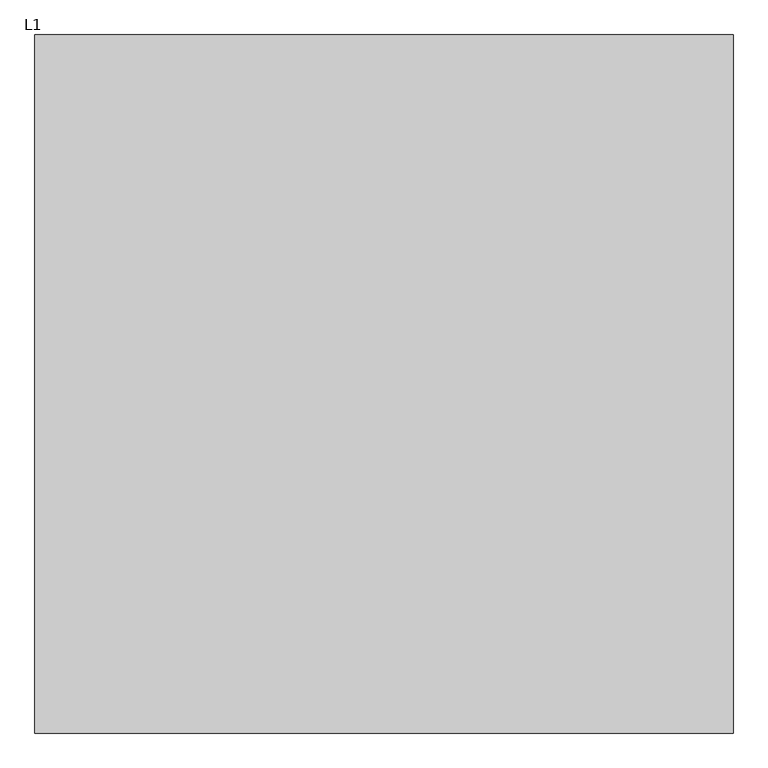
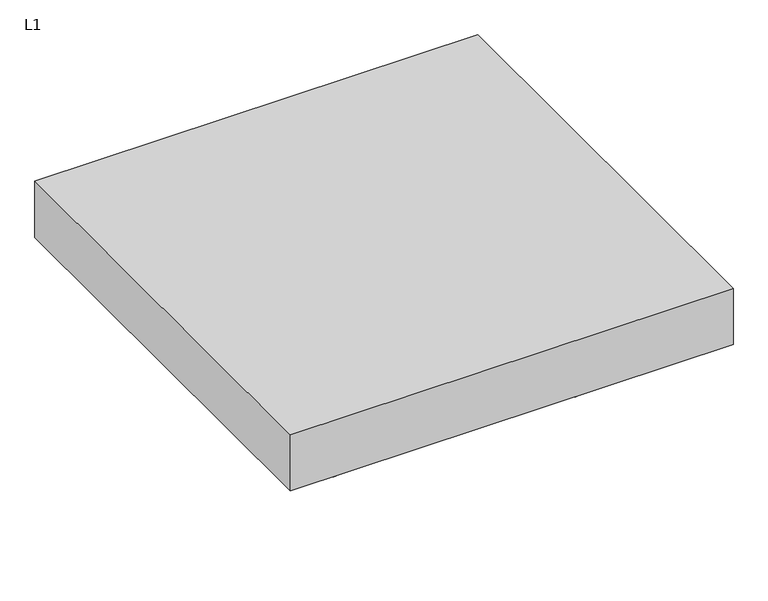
"""IFC4 building model written with IfcOpenShell, lengths in millimetres: proxy geometry, OWA Corpus : L1."""

from ifc_helpers import new_model, si_unit, point, frame, frame_2d, origin, place, context, project, spatial, polyline, circle_curve, trimmed, segment, composite_curve, outline, extrude, faceted_brep, source, transform, mapped, element, save
from ifc_brep_helpers import plane_surface, cylinder_surface, revolved_surface, advanced_brep


def l1_92acadb2(model_context):
    return source(origin(), model_context, "Body", "SolidModel", [
        advanced_brep(
        [(-128.5, -305.0, 0.0), (-120.7593825, -305.0, 0.0), (-136.2406175, -305.0, 0.0), (-120.7593825, -305.0, 15.0), (-136.2406175, -305.0, 15.0), (-121.6843825, -305.0, 15.0), (-135.3156175, -305.0, 15.0), (-121.6843825, -305.0, 19.0), (-135.3156175, -305.0, 19.0), (-126.4343825, -305.0, 19.0), (-130.5656175, -305.0, 19.0), (-126.4343825, -305.0, 22.546183), (-130.5656175, -305.0, 22.546183), (-128.5, -305.0, 22.546183)],
        [
            (0, 1),
            (1, 2, circle_curve(frame((-128.5, -305.0, 0.0), z_axis=(0.0, 0.0, -1.0), x_axis=(-1.0, 0.0, 0.0)), 7.7406175)),
            (2, 0),
            (2, 1, circle_curve(frame((-128.5, -305.0, 0.0), z_axis=(0.0, 0.0, -1.0), x_axis=(-1.0, 0.0, 0.0)), 7.7406175)),
            (1, 3),
            (3, 4, circle_curve(frame((-128.5, -305.0, 15.0), z_axis=(0.0, 0.0, -1.0), x_axis=(-1.0, 0.0, 0.0)), 7.7406175)),
            (4, 2),
            (4, 3, circle_curve(frame((-128.5, -305.0, 15.0), z_axis=(0.0, 0.0, -1.0), x_axis=(-1.0, 0.0, 0.0)), 7.7406175)),
            (3, 5),
            (5, 6, circle_curve(frame((-128.5, -305.0, 15.0), z_axis=(0.0, 0.0, -1.0), x_axis=(-1.0, 0.0, 0.0)), 6.8156175)),
            (6, 4),
            (6, 5, circle_curve(frame((-128.5, -305.0, 15.0), z_axis=(0.0, 0.0, -1.0), x_axis=(-1.0, 0.0, 0.0)), 6.8156175)),
            (5, 7),
            (7, 8, circle_curve(frame((-128.5, -305.0, 19.0), z_axis=(0.0, 0.0, -1.0), x_axis=(-1.0, 0.0, 0.0)), 6.8156175)),
            (8, 6),
            (8, 7, circle_curve(frame((-128.5, -305.0, 19.0), z_axis=(0.0, 0.0, -1.0), x_axis=(-1.0, 0.0, 0.0)), 6.8156175)),
            (7, 9),
            (9, 10, circle_curve(frame((-128.5, -305.0, 19.0), z_axis=(0.0, 0.0, -1.0), x_axis=(-1.0, 0.0, 0.0)), 2.0656175)),
            (10, 8),
            (10, 9, circle_curve(frame((-128.5, -305.0, 19.0), z_axis=(0.0, 0.0, -1.0), x_axis=(-1.0, 0.0, 0.0)), 2.0656175)),
            (9, 11),
            (11, 12, circle_curve(frame((-128.5, -305.0, 22.546183), z_axis=(0.0, 0.0, -1.0), x_axis=(-1.0, 0.0, 0.0)), 2.0656175)),
            (12, 10),
            (12, 11, circle_curve(frame((-128.5, -305.0, 22.546183), z_axis=(0.0, 0.0, -1.0), x_axis=(-1.0, 0.0, 0.0)), 2.0656175)),
            (11, 13),
            (13, 12),
        ],
        [
            plane_surface(frame((-128.5, -305.0, 0.0), z_axis=(0.0, 0.0, -1.0), x_axis=(-1.0, 0.0, 0.0))),
            cylinder_surface(frame((-128.5, -305.0, -10.0), z_axis=(0.0, 0.0, -1.0), x_axis=(-1.0, 0.0, 0.0)), 7.7406175),
            plane_surface(frame((-128.5, -305.0, 15.0), z_axis=(0.0, 0.0, 1.0), x_axis=(-1.0, 0.0, 0.0))),
            cylinder_surface(frame((-128.5, -305.0, -10.0), z_axis=(0.0, 0.0, -1.0), x_axis=(-1.0, 0.0, 0.0)), 6.8156175),
            plane_surface(frame((-128.5, -305.0, 19.0), z_axis=(0.0, 0.0, 1.0), x_axis=(-1.0, 0.0, 0.0))),
            cylinder_surface(frame((-128.5, -305.0, -10.0), z_axis=(0.0, 0.0, -1.0), x_axis=(-1.0, 0.0, 0.0)), 2.0656175),
            plane_surface(frame((-128.5, -305.0, 22.546183), z_axis=(0.0, 0.0, 1.0), x_axis=(-1.0, 0.0, 0.0))),
        ],
        [
            (0, [[1, 2, 3]]),
            (0, [[-3, 4, -1]]),
            (1, [[5, 6, 7, -2]]),
            (1, [[-7, 8, -5, -4]]),
            (2, [[9, 10, 11, -6]]),
            (2, [[-11, 12, -9, -8]]),
            (3, [[13, 14, 15, -10]]),
            (3, [[-15, 16, -13, -12]]),
            (4, [[17, 18, 19, -14]]),
            (4, [[-19, 20, -17, -16]]),
            (5, [[21, 22, 23, -18]]),
            (5, [[-23, 24, -21, -20]]),
            (6, [[25, 26, -22]]),
            (6, [[-26, -25, -24]]),
        ],
    ),
        advanced_brep(
        [(-126.2615389, -305.0, 278.8211737), (-126.1339453, -305.0, 282.8711737), (-130.8660547, -305.0, 282.8711737), (-130.7384611, -305.0, 278.8211737), (-123.6339453, -305.0, 282.8711737), (-133.3660547, -305.0, 282.8711737), (-123.6339453, -305.0, 308.1211737), (-133.3660547, -305.0, 308.1211737), (-112.6339453, -305.0, 308.1211737), (-144.3660547, -305.0, 308.1211737), (-112.6339453, -305.0, 310.0), (-144.3660547, -305.0, 310.0), (-128.5, -305.0, 310.0), (-128.5, -305.0, 278.8211737)],
        [
            (0, 1),
            (1, 2, circle_curve(frame((-128.5, -305.0, 282.8711737), z_axis=(0.0, 0.0, -1.0), x_axis=(-1.0, 0.0, 0.0)), 2.3660547)),
            (2, 3),
            (3, 0, circle_curve(frame((-128.5, -305.0, 278.8211737), z_axis=(0.0, 0.0, 1.0), x_axis=(-1.0, 0.0, 0.0)), 2.2384611)),
            (2, 1, circle_curve(frame((-128.5, -305.0, 282.8711737), z_axis=(0.0, 0.0, -1.0), x_axis=(-1.0, 0.0, 0.0)), 2.3660547)),
            (0, 3, circle_curve(frame((-128.5, -305.0, 278.8211737), z_axis=(0.0, 0.0, 1.0), x_axis=(-1.0, 0.0, 0.0)), 2.2384611)),
            (1, 4),
            (4, 5, circle_curve(frame((-128.5, -305.0, 282.8711737), z_axis=(0.0, 0.0, -1.0), x_axis=(-1.0, 0.0, 0.0)), 4.8660547)),
            (5, 2),
            (5, 4, circle_curve(frame((-128.5, -305.0, 282.8711737), z_axis=(0.0, 0.0, -1.0), x_axis=(-1.0, 0.0, 0.0)), 4.8660547)),
            (4, 6),
            (6, 7, circle_curve(frame((-128.5, -305.0, 308.1211737), z_axis=(0.0, 0.0, -1.0), x_axis=(-1.0, 0.0, 0.0)), 4.8660547)),
            (7, 5),
            (7, 6, circle_curve(frame((-128.5, -305.0, 308.1211737), z_axis=(0.0, 0.0, -1.0), x_axis=(-1.0, 0.0, 0.0)), 4.8660547)),
            (6, 8),
            (8, 9, circle_curve(frame((-128.5, -305.0, 308.1211737), z_axis=(0.0, 0.0, -1.0), x_axis=(-1.0, 0.0, 0.0)), 15.8660547)),
            (9, 7),
            (9, 8, circle_curve(frame((-128.5, -305.0, 308.1211737), z_axis=(0.0, 0.0, -1.0), x_axis=(-1.0, 0.0, 0.0)), 15.8660547)),
            (8, 10),
            (10, 11, circle_curve(frame((-128.5, -305.0, 310.0), z_axis=(0.0, 0.0, -1.0), x_axis=(-1.0, 0.0, 0.0)), 15.8660547)),
            (11, 9),
            (11, 10, circle_curve(frame((-128.5, -305.0, 310.0), z_axis=(0.0, 0.0, -1.0), x_axis=(-1.0, 0.0, 0.0)), 15.8660547)),
            (10, 12),
            (12, 11),
            (13, 0),
            (3, 13),
        ],
        [
            revolved_surface(polyline([(-130.8660547, -305.0, 282.8711737), (-130.7384611, -305.0, 278.8211737)]), (-128.5, -305.0, 311.8401096), (0.0, 0.0, -1.0)),
            plane_surface(frame((-128.5, -305.0, 282.8711737), z_axis=(0.0, 0.0, -1.0), x_axis=(-1.0, 0.0, 0.0))),
            cylinder_surface(frame((-128.5, -305.0, 311.8401096), z_axis=(0.0, 0.0, -1.0), x_axis=(-1.0, 0.0, 0.0)), 4.8660547),
            plane_surface(frame((-128.5, -305.0, 308.1211737), z_axis=(0.0, 0.0, -1.0), x_axis=(-1.0, 0.0, 0.0))),
            cylinder_surface(frame((-128.5, -305.0, 311.8401096), z_axis=(0.0, 0.0, -1.0), x_axis=(-1.0, 0.0, 0.0)), 15.8660547),
            plane_surface(frame((-128.5, -305.0, 310.0), z_axis=(0.0, 0.0, 1.0), x_axis=(-1.0, 0.0, 0.0))),
            plane_surface(frame((-128.5, -305.0, 278.8211737), z_axis=(0.0, 0.0, -1.0), x_axis=(-1.0, 0.0, 0.0))),
        ],
        [
            (0, [[1, 2, 3, 4]]),
            (0, [[-3, 5, -1, 6]]),
            (1, [[7, 8, 9, -2]]),
            (1, [[-9, 10, -7, -5]]),
            (2, [[11, 12, 13, -8]]),
            (2, [[-13, 14, -11, -10]]),
            (3, [[15, 16, 17, -12]]),
            (3, [[-17, 18, -15, -14]]),
            (4, [[19, 20, 21, -16]]),
            (4, [[-21, 22, -19, -18]]),
            (5, [[23, 24, -20]]),
            (5, [[-24, -23, -22]]),
            (6, [[25, -4, 26]]),
            (6, [[-26, -6, -25]]),
        ],
    ),
        extrude(outline(composite_curve([segment(trimmed(circle_curve(frame_2d((-128.5, -305.0)), 1.0), [point((-129.5, -305.0))], [point((-127.5, -305.0))], False, "CARTESIAN"), True, "CONTINUOUS"), segment(trimmed(circle_curve(frame_2d((-128.5, -305.0)), 1.0), [point((-127.5, -305.0))], [point((-129.5, -305.0))], False, "CARTESIAN"), True, "CONTINUOUS")], self_intersect=False)), frame((0.0, 0.0, 22.546183), z_axis=(0.0, 0.0, 1.0), x_axis=(1.0, 0.0, 0.0)), (0.0, 0.0, 1.0), 256.2749908),
        advanced_brep(
        [(-128.5, 305.0, 0.0), (-136.2406175, 305.0, 0.0), (-120.7593825, 305.0, 0.0), (-136.2406175, 305.0, 15.0), (-120.7593825, 305.0, 15.0), (-135.3156175, 305.0, 15.0), (-121.6843825, 305.0, 15.0), (-135.3156175, 305.0, 19.0), (-121.6843825, 305.0, 19.0), (-130.5656175, 305.0, 19.0), (-126.4343825, 305.0, 19.0), (-130.5656175, 305.0, 22.546183), (-126.4343825, 305.0, 22.546183), (-128.5, 305.0, 22.546183)],
        [
            (0, 1),
            (1, 2, circle_curve(frame((-128.5, 305.0, 0.0), z_axis=(0.0, 0.0, -1.0), x_axis=(-1.0, 0.0, 0.0)), 7.7406175)),
            (2, 0),
            (2, 1, circle_curve(frame((-128.5, 305.0, 0.0), z_axis=(0.0, 0.0, -1.0), x_axis=(-1.0, 0.0, 0.0)), 7.7406175)),
            (1, 3),
            (3, 4, circle_curve(frame((-128.5, 305.0, 15.0), z_axis=(0.0, 0.0, -1.0), x_axis=(-1.0, 0.0, 0.0)), 7.7406175)),
            (4, 2),
            (4, 3, circle_curve(frame((-128.5, 305.0, 15.0), z_axis=(0.0, 0.0, -1.0), x_axis=(-1.0, 0.0, 0.0)), 7.7406175)),
            (3, 5),
            (5, 6, circle_curve(frame((-128.5, 305.0, 15.0), z_axis=(0.0, 0.0, -1.0), x_axis=(-1.0, 0.0, 0.0)), 6.8156175)),
            (6, 4),
            (6, 5, circle_curve(frame((-128.5, 305.0, 15.0), z_axis=(0.0, 0.0, -1.0), x_axis=(-1.0, 0.0, 0.0)), 6.8156175)),
            (5, 7),
            (7, 8, circle_curve(frame((-128.5, 305.0, 19.0), z_axis=(0.0, 0.0, -1.0), x_axis=(-1.0, 0.0, 0.0)), 6.8156175)),
            (8, 6),
            (8, 7, circle_curve(frame((-128.5, 305.0, 19.0), z_axis=(0.0, 0.0, -1.0), x_axis=(-1.0, 0.0, 0.0)), 6.8156175)),
            (7, 9),
            (9, 10, circle_curve(frame((-128.5, 305.0, 19.0), z_axis=(0.0, 0.0, -1.0), x_axis=(-1.0, 0.0, 0.0)), 2.0656175)),
            (10, 8),
            (10, 9, circle_curve(frame((-128.5, 305.0, 19.0), z_axis=(0.0, 0.0, -1.0), x_axis=(-1.0, 0.0, 0.0)), 2.0656175)),
            (9, 11),
            (11, 12, circle_curve(frame((-128.5, 305.0, 22.546183), z_axis=(0.0, 0.0, -1.0), x_axis=(-1.0, 0.0, 0.0)), 2.0656175)),
            (12, 10),
            (12, 11, circle_curve(frame((-128.5, 305.0, 22.546183), z_axis=(0.0, 0.0, -1.0), x_axis=(-1.0, 0.0, 0.0)), 2.0656175)),
            (11, 13),
            (13, 12),
        ],
        [
            plane_surface(frame((-128.5, 305.0, 0.0), z_axis=(0.0, 0.0, -1.0), x_axis=(-1.0, 0.0, 0.0))),
            cylinder_surface(frame((-128.5, 305.0, -10.0), z_axis=(0.0, 0.0, -1.0), x_axis=(-1.0, 0.0, 0.0)), 7.7406175),
            plane_surface(frame((-128.5, 305.0, 15.0), z_axis=(0.0, 0.0, 1.0), x_axis=(-1.0, 0.0, 0.0))),
            cylinder_surface(frame((-128.5, 305.0, -10.0), z_axis=(0.0, 0.0, -1.0), x_axis=(-1.0, 0.0, 0.0)), 6.8156175),
            plane_surface(frame((-128.5, 305.0, 19.0), z_axis=(0.0, 0.0, 1.0), x_axis=(-1.0, 0.0, 0.0))),
            cylinder_surface(frame((-128.5, 305.0, -10.0), z_axis=(0.0, 0.0, -1.0), x_axis=(-1.0, 0.0, 0.0)), 2.0656175),
            plane_surface(frame((-128.5, 305.0, 22.546183), z_axis=(0.0, 0.0, 1.0), x_axis=(-1.0, 0.0, 0.0))),
        ],
        [
            (0, [[1, 2, 3]]),
            (0, [[-3, 4, -1]]),
            (1, [[-2, 5, 6, 7]]),
            (1, [[-4, -7, 8, -5]]),
            (2, [[-6, 9, 10, 11]]),
            (2, [[-8, -11, 12, -9]]),
            (3, [[-10, 13, 14, 15]]),
            (3, [[-12, -15, 16, -13]]),
            (4, [[-14, 17, 18, 19]]),
            (4, [[-16, -19, 20, -17]]),
            (5, [[-18, 21, 22, 23]]),
            (5, [[-20, -23, 24, -21]]),
            (6, [[-22, 25, 26]]),
            (6, [[-24, -26, -25]]),
        ],
    ),
        advanced_brep(
        [(-126.2615389, 305.0, 278.8211737), (-130.7384611, 305.0, 278.8211737), (-130.8660547, 305.0, 282.8711737), (-126.1339453, 305.0, 282.8711737), (-133.3660547, 305.0, 282.8711737), (-123.6339453, 305.0, 282.8711737), (-133.3660547, 305.0, 308.1211737), (-123.6339453, 305.0, 308.1211737), (-144.3660547, 305.0, 308.1211737), (-112.6339453, 305.0, 308.1211737), (-144.3660547, 305.0, 310.0), (-112.6339453, 305.0, 310.0), (-128.5, 305.0, 310.0), (-128.5, 305.0, 278.8211737)],
        [
            (0, 1, circle_curve(frame((-128.5, 305.0, 278.8211737), z_axis=(0.0, 0.0, 1.0), x_axis=(-1.0, 0.0, 0.0)), 2.2384611)),
            (1, 2),
            (2, 3, circle_curve(frame((-128.5, 305.0, 282.8711737), z_axis=(0.0, 0.0, -1.0), x_axis=(-1.0, 0.0, 0.0)), 2.3660547)),
            (3, 0),
            (1, 0, circle_curve(frame((-128.5, 305.0, 278.8211737), z_axis=(0.0, 0.0, 1.0), x_axis=(-1.0, 0.0, 0.0)), 2.2384611)),
            (3, 2, circle_curve(frame((-128.5, 305.0, 282.8711737), z_axis=(0.0, 0.0, -1.0), x_axis=(-1.0, 0.0, 0.0)), 2.3660547)),
            (2, 4),
            (4, 5, circle_curve(frame((-128.5, 305.0, 282.8711737), z_axis=(0.0, 0.0, -1.0), x_axis=(-1.0, 0.0, 0.0)), 4.8660547)),
            (5, 3),
            (5, 4, circle_curve(frame((-128.5, 305.0, 282.8711737), z_axis=(0.0, 0.0, -1.0), x_axis=(-1.0, 0.0, 0.0)), 4.8660547)),
            (4, 6),
            (6, 7, circle_curve(frame((-128.5, 305.0, 308.1211737), z_axis=(0.0, 0.0, -1.0), x_axis=(-1.0, 0.0, 0.0)), 4.8660547)),
            (7, 5),
            (7, 6, circle_curve(frame((-128.5, 305.0, 308.1211737), z_axis=(0.0, 0.0, -1.0), x_axis=(-1.0, 0.0, 0.0)), 4.8660547)),
            (6, 8),
            (8, 9, circle_curve(frame((-128.5, 305.0, 308.1211737), z_axis=(0.0, 0.0, -1.0), x_axis=(-1.0, 0.0, 0.0)), 15.8660547)),
            (9, 7),
            (9, 8, circle_curve(frame((-128.5, 305.0, 308.1211737), z_axis=(0.0, 0.0, -1.0), x_axis=(-1.0, 0.0, 0.0)), 15.8660547)),
            (8, 10),
            (10, 11, circle_curve(frame((-128.5, 305.0, 310.0), z_axis=(0.0, 0.0, -1.0), x_axis=(-1.0, 0.0, 0.0)), 15.8660547)),
            (11, 9),
            (11, 10, circle_curve(frame((-128.5, 305.0, 310.0), z_axis=(0.0, 0.0, -1.0), x_axis=(-1.0, 0.0, 0.0)), 15.8660547)),
            (10, 12),
            (12, 11),
            (13, 1),
            (0, 13),
        ],
        [
            revolved_surface(polyline([(-130.8660547, 305.0, 282.8711737), (-130.7384611, 305.0, 278.8211737)]), (-128.5, 305.0, 311.8401096), (0.0, 0.0, -1.0)),
            plane_surface(frame((-128.5, 305.0, 282.8711737), z_axis=(0.0, 0.0, -1.0), x_axis=(-1.0, 0.0, 0.0))),
            cylinder_surface(frame((-128.5, 305.0, 311.8401096), z_axis=(0.0, 0.0, -1.0), x_axis=(-1.0, 0.0, 0.0)), 4.8660547),
            plane_surface(frame((-128.5, 305.0, 308.1211737), z_axis=(0.0, 0.0, -1.0), x_axis=(-1.0, 0.0, 0.0))),
            cylinder_surface(frame((-128.5, 305.0, 311.8401096), z_axis=(0.0, 0.0, -1.0), x_axis=(-1.0, 0.0, 0.0)), 15.8660547),
            plane_surface(frame((-128.5, 305.0, 310.0), z_axis=(0.0, 0.0, 1.0), x_axis=(-1.0, 0.0, 0.0))),
            plane_surface(frame((-128.5, 305.0, 278.8211737), z_axis=(0.0, 0.0, -1.0), x_axis=(-1.0, 0.0, 0.0))),
        ],
        [
            (0, [[1, 2, 3, 4]]),
            (0, [[5, -4, 6, -2]]),
            (1, [[-3, 7, 8, 9]]),
            (1, [[-6, -9, 10, -7]]),
            (2, [[-8, 11, 12, 13]]),
            (2, [[-10, -13, 14, -11]]),
            (3, [[-12, 15, 16, 17]]),
            (3, [[-14, -17, 18, -15]]),
            (4, [[-16, 19, 20, 21]]),
            (4, [[-18, -21, 22, -19]]),
            (5, [[-20, 23, 24]]),
            (5, [[-22, -24, -23]]),
            (6, [[25, -1, 26]]),
            (6, [[-26, -5, -25]]),
        ],
    ),
        extrude(outline(composite_curve([segment(trimmed(circle_curve(frame_2d((-128.5, 305.0)), 1.0), [point((-129.5, 305.0))], [point((-127.5, 305.0))], False, "CARTESIAN"), True, "CONTINUOUS"), segment(trimmed(circle_curve(frame_2d((-128.5, 305.0)), 1.0), [point((-127.5, 305.0))], [point((-129.5, 305.0))], False, "CARTESIAN"), True, "CONTINUOUS")], self_intersect=False)), frame((0.0, 0.0, 22.546183), z_axis=(0.0, 0.0, 1.0), x_axis=(1.0, 0.0, 0.0)), (0.0, 0.0, 1.0), 256.2749908),
        advanced_brep(
        [(-738.5, -305.0, 0.0), (-730.7593825, -305.0, 0.0), (-746.2406175, -305.0, 0.0), (-730.7593825, -305.0, 15.0), (-746.2406175, -305.0, 15.0), (-731.6843825, -305.0, 15.0), (-745.3156175, -305.0, 15.0), (-731.6843825, -305.0, 19.0), (-745.3156175, -305.0, 19.0), (-736.4343825, -305.0, 19.0), (-740.5656175, -305.0, 19.0), (-736.4343825, -305.0, 22.546183), (-740.5656175, -305.0, 22.546183), (-738.5, -305.0, 22.546183)],
        [
            (0, 1),
            (1, 2, circle_curve(frame((-738.5, -305.0, 0.0), z_axis=(0.0, 0.0, -1.0), x_axis=(-1.0, 0.0, 0.0)), 7.7406175)),
            (2, 0),
            (2, 1, circle_curve(frame((-738.5, -305.0, 0.0), z_axis=(0.0, 0.0, -1.0), x_axis=(-1.0, 0.0, 0.0)), 7.7406175)),
            (1, 3),
            (3, 4, circle_curve(frame((-738.5, -305.0, 15.0), z_axis=(0.0, 0.0, -1.0), x_axis=(-1.0, 0.0, 0.0)), 7.7406175)),
            (4, 2),
            (4, 3, circle_curve(frame((-738.5, -305.0, 15.0), z_axis=(0.0, 0.0, -1.0), x_axis=(-1.0, 0.0, 0.0)), 7.7406175)),
            (3, 5),
            (5, 6, circle_curve(frame((-738.5, -305.0, 15.0), z_axis=(0.0, 0.0, -1.0), x_axis=(-1.0, 0.0, 0.0)), 6.8156175)),
            (6, 4),
            (6, 5, circle_curve(frame((-738.5, -305.0, 15.0), z_axis=(0.0, 0.0, -1.0), x_axis=(-1.0, 0.0, 0.0)), 6.8156175)),
            (5, 7),
            (7, 8, circle_curve(frame((-738.5, -305.0, 19.0), z_axis=(0.0, 0.0, -1.0), x_axis=(-1.0, 0.0, 0.0)), 6.8156175)),
            (8, 6),
            (8, 7, circle_curve(frame((-738.5, -305.0, 19.0), z_axis=(0.0, 0.0, -1.0), x_axis=(-1.0, 0.0, 0.0)), 6.8156175)),
            (7, 9),
            (9, 10, circle_curve(frame((-738.5, -305.0, 19.0), z_axis=(0.0, 0.0, -1.0), x_axis=(-1.0, 0.0, 0.0)), 2.0656175)),
            (10, 8),
            (10, 9, circle_curve(frame((-738.5, -305.0, 19.0), z_axis=(0.0, 0.0, -1.0), x_axis=(-1.0, 0.0, 0.0)), 2.0656175)),
            (9, 11),
            (11, 12, circle_curve(frame((-738.5, -305.0, 22.546183), z_axis=(0.0, 0.0, -1.0), x_axis=(-1.0, 0.0, 0.0)), 2.0656175)),
            (12, 10),
            (12, 11, circle_curve(frame((-738.5, -305.0, 22.546183), z_axis=(0.0, 0.0, -1.0), x_axis=(-1.0, 0.0, 0.0)), 2.0656175)),
            (11, 13),
            (13, 12),
        ],
        [
            plane_surface(frame((-738.5, -305.0, 0.0), z_axis=(0.0, 0.0, -1.0), x_axis=(-1.0, 0.0, 0.0))),
            cylinder_surface(frame((-738.5, -305.0, -10.0), z_axis=(0.0, 0.0, -1.0), x_axis=(-1.0, 0.0, 0.0)), 7.7406175),
            plane_surface(frame((-738.5, -305.0, 15.0), z_axis=(0.0, 0.0, 1.0), x_axis=(-1.0, 0.0, 0.0))),
            cylinder_surface(frame((-738.5, -305.0, -10.0), z_axis=(0.0, 0.0, -1.0), x_axis=(-1.0, 0.0, 0.0)), 6.8156175),
            plane_surface(frame((-738.5, -305.0, 19.0), z_axis=(0.0, 0.0, 1.0), x_axis=(-1.0, 0.0, 0.0))),
            cylinder_surface(frame((-738.5, -305.0, -10.0), z_axis=(0.0, 0.0, -1.0), x_axis=(-1.0, 0.0, 0.0)), 2.0656175),
            plane_surface(frame((-738.5, -305.0, 22.546183), z_axis=(0.0, 0.0, 1.0), x_axis=(-1.0, 0.0, 0.0))),
        ],
        [
            (0, [[1, 2, 3]]),
            (0, [[-3, 4, -1]]),
            (1, [[5, 6, 7, -2]]),
            (1, [[-7, 8, -5, -4]]),
            (2, [[9, 10, 11, -6]]),
            (2, [[-11, 12, -9, -8]]),
            (3, [[13, 14, 15, -10]]),
            (3, [[-15, 16, -13, -12]]),
            (4, [[17, 18, 19, -14]]),
            (4, [[-19, 20, -17, -16]]),
            (5, [[21, 22, 23, -18]]),
            (5, [[-23, 24, -21, -20]]),
            (6, [[25, 26, -22]]),
            (6, [[-26, -25, -24]]),
        ],
    ),
        advanced_brep(
        [(-736.2615389, -305.0, 278.8211737), (-736.1339453, -305.0, 282.8711737), (-740.8660547, -305.0, 282.8711737), (-740.7384611, -305.0, 278.8211737), (-733.6339453, -305.0, 282.8711737), (-743.3660547, -305.0, 282.8711737), (-733.6339453, -305.0, 308.1211737), (-743.3660547, -305.0, 308.1211737), (-722.6339453, -305.0, 308.1211737), (-754.3660547, -305.0, 308.1211737), (-722.6339453, -305.0, 310.0), (-754.3660547, -305.0, 310.0), (-738.5, -305.0, 310.0), (-738.5, -305.0, 278.8211737)],
        [
            (0, 1),
            (1, 2, circle_curve(frame((-738.5, -305.0, 282.8711737), z_axis=(0.0, 0.0, -1.0), x_axis=(-1.0, 0.0, 0.0)), 2.3660547)),
            (2, 3),
            (3, 0, circle_curve(frame((-738.5, -305.0, 278.8211737), z_axis=(0.0, 0.0, 1.0), x_axis=(-1.0, 0.0, 0.0)), 2.2384611)),
            (2, 1, circle_curve(frame((-738.5, -305.0, 282.8711737), z_axis=(0.0, 0.0, -1.0), x_axis=(-1.0, 0.0, 0.0)), 2.3660547)),
            (0, 3, circle_curve(frame((-738.5, -305.0, 278.8211737), z_axis=(0.0, 0.0, 1.0), x_axis=(-1.0, 0.0, 0.0)), 2.2384611)),
            (1, 4),
            (4, 5, circle_curve(frame((-738.5, -305.0, 282.8711737), z_axis=(0.0, 0.0, -1.0), x_axis=(-1.0, 0.0, 0.0)), 4.8660547)),
            (5, 2),
            (5, 4, circle_curve(frame((-738.5, -305.0, 282.8711737), z_axis=(0.0, 0.0, -1.0), x_axis=(-1.0, 0.0, 0.0)), 4.8660547)),
            (4, 6),
            (6, 7, circle_curve(frame((-738.5, -305.0, 308.1211737), z_axis=(0.0, 0.0, -1.0), x_axis=(-1.0, 0.0, 0.0)), 4.8660547)),
            (7, 5),
            (7, 6, circle_curve(frame((-738.5, -305.0, 308.1211737), z_axis=(0.0, 0.0, -1.0), x_axis=(-1.0, 0.0, 0.0)), 4.8660547)),
            (6, 8),
            (8, 9, circle_curve(frame((-738.5, -305.0, 308.1211737), z_axis=(0.0, 0.0, -1.0), x_axis=(-1.0, 0.0, 0.0)), 15.8660547)),
            (9, 7),
            (9, 8, circle_curve(frame((-738.5, -305.0, 308.1211737), z_axis=(0.0, 0.0, -1.0), x_axis=(-1.0, 0.0, 0.0)), 15.8660547)),
            (8, 10),
            (10, 11, circle_curve(frame((-738.5, -305.0, 310.0), z_axis=(0.0, 0.0, -1.0), x_axis=(-1.0, 0.0, 0.0)), 15.8660547)),
            (11, 9),
            (11, 10, circle_curve(frame((-738.5, -305.0, 310.0), z_axis=(0.0, 0.0, -1.0), x_axis=(-1.0, 0.0, 0.0)), 15.8660547)),
            (10, 12),
            (12, 11),
            (13, 0),
            (3, 13),
        ],
        [
            revolved_surface(polyline([(-740.8660547, -305.0, 282.8711737), (-740.7384611, -305.0, 278.8211737)]), (-738.5, -305.0, 311.8401096), (0.0, 0.0, -1.0)),
            plane_surface(frame((-738.5, -305.0, 282.8711737), z_axis=(0.0, 0.0, -1.0), x_axis=(-1.0, 0.0, 0.0))),
            cylinder_surface(frame((-738.5, -305.0, 311.8401096), z_axis=(0.0, 0.0, -1.0), x_axis=(-1.0, 0.0, 0.0)), 4.8660547),
            plane_surface(frame((-738.5, -305.0, 308.1211737), z_axis=(0.0, 0.0, -1.0), x_axis=(-1.0, 0.0, 0.0))),
            cylinder_surface(frame((-738.5, -305.0, 311.8401096), z_axis=(0.0, 0.0, -1.0), x_axis=(-1.0, 0.0, 0.0)), 15.8660547),
            plane_surface(frame((-738.5, -305.0, 310.0), z_axis=(0.0, 0.0, 1.0), x_axis=(-1.0, 0.0, 0.0))),
            plane_surface(frame((-738.5, -305.0, 278.8211737), z_axis=(0.0, 0.0, -1.0), x_axis=(-1.0, 0.0, 0.0))),
        ],
        [
            (0, [[1, 2, 3, 4]]),
            (0, [[-3, 5, -1, 6]]),
            (1, [[7, 8, 9, -2]]),
            (1, [[-9, 10, -7, -5]]),
            (2, [[11, 12, 13, -8]]),
            (2, [[-13, 14, -11, -10]]),
            (3, [[15, 16, 17, -12]]),
            (3, [[-17, 18, -15, -14]]),
            (4, [[19, 20, 21, -16]]),
            (4, [[-21, 22, -19, -18]]),
            (5, [[23, 24, -20]]),
            (5, [[-24, -23, -22]]),
            (6, [[25, -4, 26]]),
            (6, [[-26, -6, -25]]),
        ],
    ),
        extrude(outline(composite_curve([segment(trimmed(circle_curve(frame_2d((-738.5, -305.0)), 1.0), [point((-739.5, -305.0))], [point((-737.5, -305.0))], False, "CARTESIAN"), True, "CONTINUOUS"), segment(trimmed(circle_curve(frame_2d((-738.5, -305.0)), 1.0), [point((-737.5, -305.0))], [point((-739.5, -305.0))], False, "CARTESIAN"), True, "CONTINUOUS")], self_intersect=False)), frame((0.0, 0.0, 22.546183), z_axis=(0.0, 0.0, 1.0), x_axis=(1.0, 0.0, 0.0)), (0.0, 0.0, 1.0), 256.2749908),
        advanced_brep(
        [(-738.5, 305.0, 0.0), (-746.2406175, 305.0, 0.0), (-730.7593825, 305.0, 0.0), (-746.2406175, 305.0, 15.0), (-730.7593825, 305.0, 15.0), (-745.3156175, 305.0, 15.0), (-731.6843825, 305.0, 15.0), (-745.3156175, 305.0, 19.0), (-731.6843825, 305.0, 19.0), (-740.5656175, 305.0, 19.0), (-736.4343825, 305.0, 19.0), (-740.5656175, 305.0, 22.546183), (-736.4343825, 305.0, 22.546183), (-738.5, 305.0, 22.546183)],
        [
            (0, 1),
            (1, 2, circle_curve(frame((-738.5, 305.0, 0.0), z_axis=(0.0, 0.0, -1.0), x_axis=(-1.0, 0.0, 0.0)), 7.7406175)),
            (2, 0),
            (2, 1, circle_curve(frame((-738.5, 305.0, 0.0), z_axis=(0.0, 0.0, -1.0), x_axis=(-1.0, 0.0, 0.0)), 7.7406175)),
            (1, 3),
            (3, 4, circle_curve(frame((-738.5, 305.0, 15.0), z_axis=(0.0, 0.0, -1.0), x_axis=(-1.0, 0.0, 0.0)), 7.7406175)),
            (4, 2),
            (4, 3, circle_curve(frame((-738.5, 305.0, 15.0), z_axis=(0.0, 0.0, -1.0), x_axis=(-1.0, 0.0, 0.0)), 7.7406175)),
            (3, 5),
            (5, 6, circle_curve(frame((-738.5, 305.0, 15.0), z_axis=(0.0, 0.0, -1.0), x_axis=(-1.0, 0.0, 0.0)), 6.8156175)),
            (6, 4),
            (6, 5, circle_curve(frame((-738.5, 305.0, 15.0), z_axis=(0.0, 0.0, -1.0), x_axis=(-1.0, 0.0, 0.0)), 6.8156175)),
            (5, 7),
            (7, 8, circle_curve(frame((-738.5, 305.0, 19.0), z_axis=(0.0, 0.0, -1.0), x_axis=(-1.0, 0.0, 0.0)), 6.8156175)),
            (8, 6),
            (8, 7, circle_curve(frame((-738.5, 305.0, 19.0), z_axis=(0.0, 0.0, -1.0), x_axis=(-1.0, 0.0, 0.0)), 6.8156175)),
            (7, 9),
            (9, 10, circle_curve(frame((-738.5, 305.0, 19.0), z_axis=(0.0, 0.0, -1.0), x_axis=(-1.0, 0.0, 0.0)), 2.0656175)),
            (10, 8),
            (10, 9, circle_curve(frame((-738.5, 305.0, 19.0), z_axis=(0.0, 0.0, -1.0), x_axis=(-1.0, 0.0, 0.0)), 2.0656175)),
            (9, 11),
            (11, 12, circle_curve(frame((-738.5, 305.0, 22.546183), z_axis=(0.0, 0.0, -1.0), x_axis=(-1.0, 0.0, 0.0)), 2.0656175)),
            (12, 10),
            (12, 11, circle_curve(frame((-738.5, 305.0, 22.546183), z_axis=(0.0, 0.0, -1.0), x_axis=(-1.0, 0.0, 0.0)), 2.0656175)),
            (11, 13),
            (13, 12),
        ],
        [
            plane_surface(frame((-738.5, 305.0, 0.0), z_axis=(0.0, 0.0, -1.0), x_axis=(-1.0, 0.0, 0.0))),
            cylinder_surface(frame((-738.5, 305.0, -10.0), z_axis=(0.0, 0.0, -1.0), x_axis=(-1.0, 0.0, 0.0)), 7.7406175),
            plane_surface(frame((-738.5, 305.0, 15.0), z_axis=(0.0, 0.0, 1.0), x_axis=(-1.0, 0.0, 0.0))),
            cylinder_surface(frame((-738.5, 305.0, -10.0), z_axis=(0.0, 0.0, -1.0), x_axis=(-1.0, 0.0, 0.0)), 6.8156175),
            plane_surface(frame((-738.5, 305.0, 19.0), z_axis=(0.0, 0.0, 1.0), x_axis=(-1.0, 0.0, 0.0))),
            cylinder_surface(frame((-738.5, 305.0, -10.0), z_axis=(0.0, 0.0, -1.0), x_axis=(-1.0, 0.0, 0.0)), 2.0656175),
            plane_surface(frame((-738.5, 305.0, 22.546183), z_axis=(0.0, 0.0, 1.0), x_axis=(-1.0, 0.0, 0.0))),
        ],
        [
            (0, [[1, 2, 3]]),
            (0, [[-3, 4, -1]]),
            (1, [[-2, 5, 6, 7]]),
            (1, [[-4, -7, 8, -5]]),
            (2, [[-6, 9, 10, 11]]),
            (2, [[-8, -11, 12, -9]]),
            (3, [[-10, 13, 14, 15]]),
            (3, [[-12, -15, 16, -13]]),
            (4, [[-14, 17, 18, 19]]),
            (4, [[-16, -19, 20, -17]]),
            (5, [[-18, 21, 22, 23]]),
            (5, [[-20, -23, 24, -21]]),
            (6, [[-22, 25, 26]]),
            (6, [[-24, -26, -25]]),
        ],
    ),
        advanced_brep(
        [(-736.2615389, 305.0, 278.8211737), (-740.7384611, 305.0, 278.8211737), (-740.8660547, 305.0, 282.8711737), (-736.1339453, 305.0, 282.8711737), (-743.3660547, 305.0, 282.8711737), (-733.6339453, 305.0, 282.8711737), (-743.3660547, 305.0, 308.1211737), (-733.6339453, 305.0, 308.1211737), (-754.3660547, 305.0, 308.1211737), (-722.6339453, 305.0, 308.1211737), (-754.3660547, 305.0, 310.0), (-722.6339453, 305.0, 310.0), (-738.5, 305.0, 310.0), (-738.5, 305.0, 278.8211737)],
        [
            (0, 1, circle_curve(frame((-738.5, 305.0, 278.8211737), z_axis=(0.0, 0.0, 1.0), x_axis=(-1.0, 0.0, 0.0)), 2.2384611)),
            (1, 2),
            (2, 3, circle_curve(frame((-738.5, 305.0, 282.8711737), z_axis=(0.0, 0.0, -1.0), x_axis=(-1.0, 0.0, 0.0)), 2.3660547)),
            (3, 0),
            (1, 0, circle_curve(frame((-738.5, 305.0, 278.8211737), z_axis=(0.0, 0.0, 1.0), x_axis=(-1.0, 0.0, 0.0)), 2.2384611)),
            (3, 2, circle_curve(frame((-738.5, 305.0, 282.8711737), z_axis=(0.0, 0.0, -1.0), x_axis=(-1.0, 0.0, 0.0)), 2.3660547)),
            (2, 4),
            (4, 5, circle_curve(frame((-738.5, 305.0, 282.8711737), z_axis=(0.0, 0.0, -1.0), x_axis=(-1.0, 0.0, 0.0)), 4.8660547)),
            (5, 3),
            (5, 4, circle_curve(frame((-738.5, 305.0, 282.8711737), z_axis=(0.0, 0.0, -1.0), x_axis=(-1.0, 0.0, 0.0)), 4.8660547)),
            (4, 6),
            (6, 7, circle_curve(frame((-738.5, 305.0, 308.1211737), z_axis=(0.0, 0.0, -1.0), x_axis=(-1.0, 0.0, 0.0)), 4.8660547)),
            (7, 5),
            (7, 6, circle_curve(frame((-738.5, 305.0, 308.1211737), z_axis=(0.0, 0.0, -1.0), x_axis=(-1.0, 0.0, 0.0)), 4.8660547)),
            (6, 8),
            (8, 9, circle_curve(frame((-738.5, 305.0, 308.1211737), z_axis=(0.0, 0.0, -1.0), x_axis=(-1.0, 0.0, 0.0)), 15.8660547)),
            (9, 7),
            (9, 8, circle_curve(frame((-738.5, 305.0, 308.1211737), z_axis=(0.0, 0.0, -1.0), x_axis=(-1.0, 0.0, 0.0)), 15.8660547)),
            (8, 10),
            (10, 11, circle_curve(frame((-738.5, 305.0, 310.0), z_axis=(0.0, 0.0, -1.0), x_axis=(-1.0, 0.0, 0.0)), 15.8660547)),
            (11, 9),
            (11, 10, circle_curve(frame((-738.5, 305.0, 310.0), z_axis=(0.0, 0.0, -1.0), x_axis=(-1.0, 0.0, 0.0)), 15.8660547)),
            (10, 12),
            (12, 11),
            (13, 1),
            (0, 13),
        ],
        [
            revolved_surface(polyline([(-740.8660547, 305.0, 282.8711737), (-740.7384611, 305.0, 278.8211737)]), (-738.5, 305.0, 311.8401096), (0.0, 0.0, -1.0)),
            plane_surface(frame((-738.5, 305.0, 282.8711737), z_axis=(0.0, 0.0, -1.0), x_axis=(-1.0, 0.0, 0.0))),
            cylinder_surface(frame((-738.5, 305.0, 311.8401096), z_axis=(0.0, 0.0, -1.0), x_axis=(-1.0, 0.0, 0.0)), 4.8660547),
            plane_surface(frame((-738.5, 305.0, 308.1211737), z_axis=(0.0, 0.0, -1.0), x_axis=(-1.0, 0.0, 0.0))),
            cylinder_surface(frame((-738.5, 305.0, 311.8401096), z_axis=(0.0, 0.0, -1.0), x_axis=(-1.0, 0.0, 0.0)), 15.8660547),
            plane_surface(frame((-738.5, 305.0, 310.0), z_axis=(0.0, 0.0, 1.0), x_axis=(-1.0, 0.0, 0.0))),
            plane_surface(frame((-738.5, 305.0, 278.8211737), z_axis=(0.0, 0.0, -1.0), x_axis=(-1.0, 0.0, 0.0))),
        ],
        [
            (0, [[1, 2, 3, 4]]),
            (0, [[5, -4, 6, -2]]),
            (1, [[-3, 7, 8, 9]]),
            (1, [[-6, -9, 10, -7]]),
            (2, [[-8, 11, 12, 13]]),
            (2, [[-10, -13, 14, -11]]),
            (3, [[-12, 15, 16, 17]]),
            (3, [[-14, -17, 18, -15]]),
            (4, [[-16, 19, 20, 21]]),
            (4, [[-18, -21, 22, -19]]),
            (5, [[-20, 23, 24]]),
            (5, [[-22, -24, -23]]),
            (6, [[25, -1, 26]]),
            (6, [[-26, -5, -25]]),
        ],
    ),
        extrude(outline(composite_curve([segment(trimmed(circle_curve(frame_2d((-738.5, 305.0)), 1.0), [point((-739.5, 305.0))], [point((-737.5, 305.0))], False, "CARTESIAN"), True, "CONTINUOUS"), segment(trimmed(circle_curve(frame_2d((-738.5, 305.0)), 1.0), [point((-737.5, 305.0))], [point((-739.5, 305.0))], False, "CARTESIAN"), True, "CONTINUOUS")], self_intersect=False)), frame((0.0, 0.0, 22.546183), z_axis=(0.0, 0.0, 1.0), x_axis=(1.0, 0.0, 0.0)), (0.0, 0.0, 1.0), 256.2749908),
        faceted_brep([(126.5, 560.0, 350.0), (-993.5, 560.0, 350.0), (-993.5, -560.0, 350.0), (126.5, -560.0, 350.0), (86.5, 520.0, 310.0), (86.5, -520.0, 310.0), (-953.5, -520.0, 310.0), (-953.5, 520.0, 310.0), (126.5, 560.0, 200.0), (-993.5, 560.0, 200.0), (-993.5, -560.0, 200.0), (126.5, -560.0, 200.0), (86.5, 520.0, 200.0), (-953.5, 520.0, 200.0), (-953.5, -520.0, 200.0), (86.5, -520.0, 200.0)], [[[0, 1, 2, 3]], [[4, 5, 6, 7]], [[1, 0, 8, 9]], [[2, 1, 9, 10]], [[3, 2, 10, 11]], [[8, 0, 3, 11]], [[8, 11, 10, 9], [12, 13, 14, 15]], [[12, 15, 5, 4]], [[15, 14, 6, 5]], [[14, 13, 7, 6]], [[13, 12, 4, 7]]]),
    ])


if __name__ == "__main__":
    model = new_model("IFC4")
    model_context = context("Model", 3, world=origin())
    ifc_project = project(units=[si_unit("LENGTHUNIT", "METRE", prefix="MILLI")], contexts=[model_context])
    site = spatial("IfcSite", under=ifc_project)
    building = spatial("IfcBuilding", under=site)
    placement = place(None, origin())
    l1_shape = l1_92acadb2(model_context)
    element("IfcBuildingElementProxy", 1, Name="OWA Corpus : L1", ObjectType="OWA Corpus : L1", at=placement, inside=building, context=model_context, shape_type="MappedRepresentation", body=[
        mapped(l1_shape, transform((0.0, 0.0, 0.0), x_axis=(1.0, 0.0, 0.0), y_axis=(0.0, 1.0, 0.0), z_axis=(0.0, 0.0, 1.0))),
    ])
    save(model, "model.ifc")
